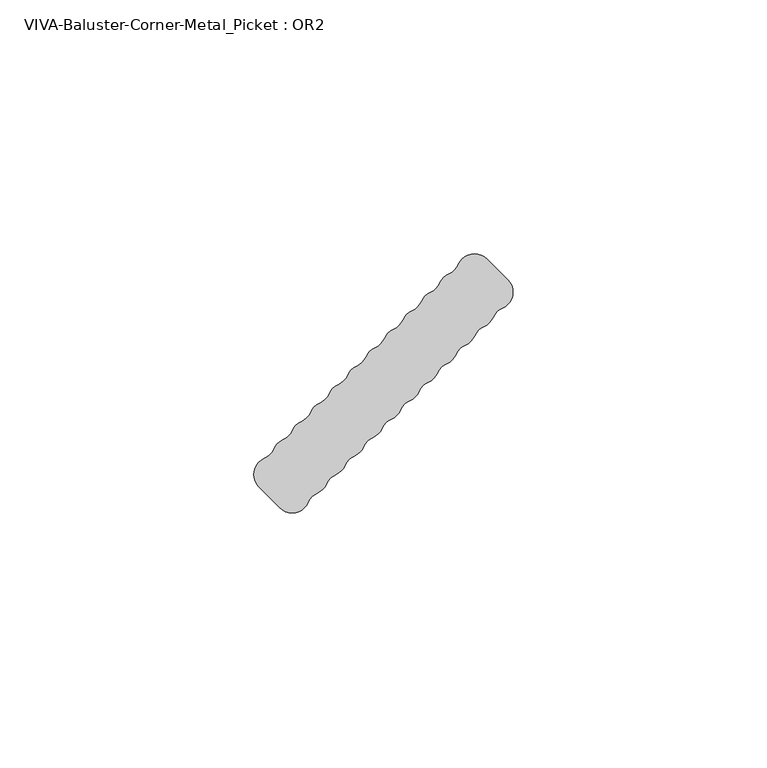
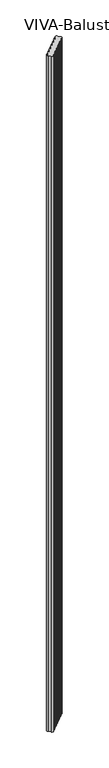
"""IFC4 building model written with IfcOpenShell, lengths in millimetres: railing geometry, VIVA-Baluster-Corner-Metal_Picket : OR2."""

from ifc_helpers import new_model, si_unit, frame, origin, place, context, project, spatial, polyline, circle_curve, source, transform, mapped, element, save
from ifc_brep_helpers import plane_surface, cylinder_surface, revolved_surface, advanced_brep


def viva_baluster_corner_metal_picket_or2_3bf7f570(model_context):
    return source(origin(), model_context, "Body", "AdvancedBrep", [
        advanced_brep(
        [(54.5821964, 81.8019365, 1219.2), (48.9877423, 80.7151586, 1219.2), (47.16774, 78.8951563, 1219.2), (45.3477377, 77.075154, 1219.2), (43.5277353, 75.2551517, 1219.2), (41.707733, 73.4351493, 1219.2), (39.8877307, 71.615147, 1219.2), (38.0677284, 69.7951447, 1219.2), (36.2477261, 67.9751424, 1219.2), (34.4277238, 66.1551401, 1219.2), (32.6077214, 64.3351378, 1219.2), (30.7877191, 62.5151354, 1219.2), (28.9677168, 60.6951331, 1219.2), (27.1477145, 58.8751308, 1219.2), (25.3277122, 57.0551285, 1219.2), (23.5077099, 55.2351262, 1219.2), (21.6877075, 53.4151239, 1219.2), (19.8677052, 51.5951215, 1219.2), (18.0477029, 49.7751192, 1219.2), (16.2277006, 47.9551169, 1219.2), (14.4076983, 46.1351146, 1219.2), (12.587696, 44.3151123, 1219.2), (10.7676936, 42.49511, 1219.2), (9.6809158, 36.9006559, 1219.2), (13.7999423, 32.7816294, 1219.2), (19.3943964, 33.8684072, 1219.2), (21.2143987, 35.6884095, 1219.2), (23.034401, 37.5084119, 1219.2), (24.8544033, 39.3284142, 1219.2), (26.6744056, 41.1484165, 1219.2), (28.494408, 42.9684188, 1219.2), (30.3144103, 44.7884211, 1219.2), (32.1344126, 46.6084234, 1219.2), (33.9544149, 48.4284258, 1219.2), (35.7744172, 50.2484281, 1219.2), (37.5944195, 52.0684304, 1219.2), (39.4144219, 53.8884327, 1219.2), (41.2344242, 55.708435, 1219.2), (43.0544265, 57.5284373, 1219.2), (44.8744288, 59.3484397, 1219.2), (46.6944311, 61.168442, 1219.2), (48.5144334, 62.9884443, 1219.2), (50.3344358, 64.8084466, 1219.2), (52.1544381, 66.6284489, 1219.2), (53.9744404, 68.4484513, 1219.2), (55.7944427, 70.2684536, 1219.2), (57.614445, 72.0884559, 1219.2), (58.7012229, 77.68291, 1219.2), (54.5821964, 81.8019365, -245.8945017), (58.7012229, 77.68291, -245.8945017), (57.614445, 72.0884559, -245.8945017), (55.7944427, 70.2684536, -245.8945017), (53.9744404, 68.4484513, -245.8945017), (52.1544381, 66.6284489, -245.8945017), (50.3344358, 64.8084466, -245.8945017), (48.5144334, 62.9884443, -245.8945017), (46.6944311, 61.168442, -245.8945017), (44.8744288, 59.3484397, -245.8945017), (43.0544265, 57.5284373, -245.8945017), (41.2344242, 55.708435, -245.8945017), (39.4144219, 53.8884327, -245.8945017), (37.5944195, 52.0684304, -245.8945017), (35.7744172, 50.2484281, -245.8945017), (33.9544149, 48.4284258, -245.8945017), (32.1344126, 46.6084234, -245.8945017), (30.3144103, 44.7884211, -245.8945017), (28.494408, 42.9684188, -245.8945017), (26.6744056, 41.1484165, -245.8945017), (24.8544033, 39.3284142, -245.8945017), (23.034401, 37.5084119, -245.8945017), (21.2143987, 35.6884095, -245.8945017), (19.3943964, 33.8684072, -245.8945017), (13.7999423, 32.7816294, -245.8945017), (9.6809158, 36.9006559, -245.8945017), (10.7676936, 42.49511, -245.8945017), (12.587696, 44.3151123, -245.8945017), (14.4076983, 46.1351146, -245.8945017), (16.2277006, 47.9551169, -245.8945017), (18.0477029, 49.7751192, -245.8945017), (19.8677052, 51.5951215, -245.8945017), (21.6877075, 53.4151239, -245.8945017), (23.5077099, 55.2351262, -245.8945017), (25.3277122, 57.0551285, -245.8945017), (27.1477145, 58.8751308, -245.8945017), (28.9677168, 60.6951331, -245.8945017), (30.7877191, 62.5151354, -245.8945017), (32.6077214, 64.3351378, -245.8945017), (34.4277238, 66.1551401, -245.8945017), (36.2477261, 67.9751424, -245.8945017), (38.0677284, 69.7951447, -245.8945017), (39.8877307, 71.615147, -245.8945017), (41.707733, 73.4351493, -245.8945017), (43.5277353, 75.2551517, -245.8945017), (45.3477377, 77.075154, -245.8945017), (47.16774, 78.8951563, -245.8945017), (48.9877423, 80.7151586, -245.8945017)],
        [
            (0, 1, circle_curve(frame((52.1515816, 79.3713217, 1219.2), z_axis=(0.0, 0.0, 1.0), x_axis=(1.0, 0.0, 0.0)), 3.4374084)),
            (1, 2, circle_curve(frame((45.823903, 82.0589956, 1219.2), z_axis=(0.0, 0.0, -1.0), x_axis=(1.0, 0.0, 0.0)), 3.4374084)),
            (2, 3, circle_curve(frame((48.5115769, 75.731317, 1219.2), z_axis=(0.0, 0.0, 1.0), x_axis=(1.0, 0.0, 0.0)), 3.4374084)),
            (3, 4, circle_curve(frame((42.1838984, 78.4189909, 1219.2), z_axis=(0.0, 0.0, -1.0), x_axis=(1.0, 0.0, 0.0)), 3.4374084)),
            (4, 5, circle_curve(frame((44.8715723, 72.0913124, 1219.2), z_axis=(0.0, 0.0, 1.0), x_axis=(1.0, 0.0, 0.0)), 3.4374084)),
            (5, 6, circle_curve(frame((38.5438938, 74.7789863, 1219.2), z_axis=(0.0, 0.0, -1.0), x_axis=(1.0, 0.0, 0.0)), 3.4374084)),
            (6, 7, circle_curve(frame((41.2315677, 68.4513078, 1219.2), z_axis=(0.0, 0.0, 1.0), x_axis=(1.0, 0.0, 0.0)), 3.4374084)),
            (7, 8, circle_curve(frame((34.9038891, 71.1389817, 1219.2), z_axis=(0.0, 0.0, -1.0), x_axis=(1.0, 0.0, 0.0)), 3.4374084)),
            (8, 9, circle_curve(frame((37.591563, 64.8113031, 1219.2), z_axis=(0.0, 0.0, 1.0), x_axis=(1.0, 0.0, 0.0)), 3.4374084)),
            (9, 10, circle_curve(frame((31.2638845, 67.498977, 1219.2), z_axis=(0.0, 0.0, -1.0), x_axis=(1.0, 0.0, 0.0)), 3.4374084)),
            (10, 11, circle_curve(frame((33.9515584, 61.1712985, 1219.2), z_axis=(0.0, 0.0, 1.0), x_axis=(1.0, 0.0, 0.0)), 3.4374084)),
            (11, 12, circle_curve(frame((27.6238798, 63.8589724, 1219.2), z_axis=(0.0, 0.0, -1.0), x_axis=(1.0, 0.0, 0.0)), 3.4374084)),
            (12, 13, circle_curve(frame((30.3115538, 57.5312939, 1219.2), z_axis=(0.0, 0.0, 1.0), x_axis=(1.0, 0.0, 0.0)), 3.4374084)),
            (13, 14, circle_curve(frame((23.9838752, 60.2189678, 1219.2), z_axis=(0.0, 0.0, -1.0), x_axis=(1.0, 0.0, 0.0)), 3.4374084)),
            (14, 15, circle_curve(frame((26.6715491, 53.8912892, 1219.2), z_axis=(0.0, 0.0, 1.0), x_axis=(1.0, 0.0, 0.0)), 3.4374084)),
            (15, 16, circle_curve(frame((20.3438706, 56.5789631, 1219.2), z_axis=(0.0, 0.0, -1.0), x_axis=(1.0, 0.0, 0.0)), 3.4374084)),
            (16, 17, circle_curve(frame((23.0315445, 50.2512846, 1219.2), z_axis=(0.0, 0.0, 1.0), x_axis=(1.0, 0.0, 0.0)), 3.4374084)),
            (17, 18, circle_curve(frame((16.7038659, 52.9389585, 1219.2), z_axis=(0.0, 0.0, -1.0), x_axis=(1.0, 0.0, 0.0)), 3.4374084)),
            (18, 19, circle_curve(frame((19.3915399, 46.6112799, 1219.2), z_axis=(0.0, 0.0, 1.0), x_axis=(1.0, 0.0, 0.0)), 3.4374084)),
            (19, 20, circle_curve(frame((13.0638613, 49.2989539, 1219.2), z_axis=(0.0, 0.0, -1.0), x_axis=(1.0, 0.0, 0.0)), 3.4374084)),
            (20, 21, circle_curve(frame((15.7515352, 42.9712753, 1219.2), z_axis=(0.0, 0.0, 1.0), x_axis=(1.0, 0.0, 0.0)), 3.4374084)),
            (21, 22, circle_curve(frame((9.4238567, 45.6589492, 1219.2), z_axis=(0.0, 0.0, -1.0), x_axis=(1.0, 0.0, 0.0)), 3.4374084)),
            (22, 23, circle_curve(frame((12.1115306, 39.3312707, 1219.2), z_axis=(0.0, 0.0, 1.0), x_axis=(1.0, 0.0, 0.0)), 3.4374084)),
            (23, 24),
            (24, 25, circle_curve(frame((16.2305571, 35.2122442, 1219.2), z_axis=(0.0, 0.0, 1.0), x_axis=(1.0, 0.0, 0.0)), 3.4374084)),
            (25, 26, circle_curve(frame((22.5582356, 32.5245703, 1219.2), z_axis=(0.0, 0.0, -1.0), x_axis=(1.0, 0.0, 0.0)), 3.4374084)),
            (26, 27, circle_curve(frame((19.8705617, 38.8522488, 1219.2), z_axis=(0.0, 0.0, 1.0), x_axis=(1.0, 0.0, 0.0)), 3.4374084)),
            (27, 28, circle_curve(frame((26.1982403, 36.1645749, 1219.2), z_axis=(0.0, 0.0, -1.0), x_axis=(1.0, 0.0, 0.0)), 3.4374084)),
            (28, 29, circle_curve(frame((23.5105664, 42.4922535, 1219.2), z_axis=(0.0, 0.0, 1.0), x_axis=(1.0, 0.0, 0.0)), 3.4374084)),
            (29, 30, circle_curve(frame((29.8382449, 39.8045795, 1219.2), z_axis=(0.0, 0.0, -1.0), x_axis=(1.0, 0.0, 0.0)), 3.4374084)),
            (30, 31, circle_curve(frame((27.150571, 46.1322581, 1219.2), z_axis=(0.0, 0.0, 1.0), x_axis=(1.0, 0.0, 0.0)), 3.4374084)),
            (31, 32, circle_curve(frame((33.4782495, 43.4445842, 1219.2), z_axis=(0.0, 0.0, -1.0), x_axis=(1.0, 0.0, 0.0)), 3.4374084)),
            (32, 33, circle_curve(frame((30.7905756, 49.7722627, 1219.2), z_axis=(0.0, 0.0, 1.0), x_axis=(1.0, 0.0, 0.0)), 3.4374084)),
            (33, 34, circle_curve(frame((37.1182542, 47.0845888, 1219.2), z_axis=(0.0, 0.0, -1.0), x_axis=(1.0, 0.0, 0.0)), 3.4374084)),
            (34, 35, circle_curve(frame((34.4305803, 53.4122674, 1219.2), z_axis=(0.0, 0.0, 1.0), x_axis=(1.0, 0.0, 0.0)), 3.4374084)),
            (35, 36, circle_curve(frame((40.7582588, 50.7245934, 1219.2), z_axis=(0.0, 0.0, -1.0), x_axis=(1.0, 0.0, 0.0)), 3.4374084)),
            (36, 37, circle_curve(frame((38.0705849, 57.052272, 1219.2), z_axis=(0.0, 0.0, 1.0), x_axis=(1.0, 0.0, 0.0)), 3.4374084)),
            (37, 38, circle_curve(frame((44.3982634, 54.3645981, 1219.2), z_axis=(0.0, 0.0, -1.0), x_axis=(1.0, 0.0, 0.0)), 3.4374084)),
            (38, 39, circle_curve(frame((41.7105895, 60.6922766, 1219.2), z_axis=(0.0, 0.0, 1.0), x_axis=(1.0, 0.0, 0.0)), 3.4374084)),
            (39, 40, circle_curve(frame((48.0382681, 58.0046027, 1219.2), z_axis=(0.0, 0.0, -1.0), x_axis=(1.0, 0.0, 0.0)), 3.4374084)),
            (40, 41, circle_curve(frame((45.3505942, 64.3322813, 1219.2), z_axis=(0.0, 0.0, 1.0), x_axis=(1.0, 0.0, 0.0)), 3.4374084)),
            (41, 42, circle_curve(frame((51.6782727, 61.6446073, 1219.2), z_axis=(0.0, 0.0, -1.0), x_axis=(1.0, 0.0, 0.0)), 3.4374084)),
            (42, 43, circle_curve(frame((48.9905988, 67.9722859, 1219.2), z_axis=(0.0, 0.0, 1.0), x_axis=(1.0, 0.0, 0.0)), 3.4374084)),
            (43, 44, circle_curve(frame((55.3182774, 65.284612, 1219.2), z_axis=(0.0, 0.0, -1.0), x_axis=(1.0, 0.0, 0.0)), 3.4374084)),
            (44, 45, circle_curve(frame((52.6306034, 71.6122905, 1219.2), z_axis=(0.0, 0.0, 1.0), x_axis=(1.0, 0.0, 0.0)), 3.4374084)),
            (45, 46, circle_curve(frame((58.958282, 68.9246166, 1219.2), z_axis=(0.0, 0.0, -1.0), x_axis=(1.0, 0.0, 0.0)), 3.4374084)),
            (46, 47, circle_curve(frame((56.2706081, 75.2522952, 1219.2), z_axis=(0.0, 0.0, 1.0), x_axis=(1.0, 0.0, 0.0)), 3.4374084)),
            (47, 0),
            (48, 49),
            (49, 50, circle_curve(frame((56.2706081, 75.2522952, -245.8945017), z_axis=(0.0, 0.0, -1.0), x_axis=(1.0, 0.0, 0.0)), 3.4374084)),
            (50, 51, circle_curve(frame((58.958282, 68.9246166, -245.8945017), z_axis=(0.0, 0.0, 1.0), x_axis=(1.0, 0.0, 0.0)), 3.4374084)),
            (51, 52, circle_curve(frame((52.6306034, 71.6122905, -245.8945017), z_axis=(0.0, 0.0, -1.0), x_axis=(1.0, 0.0, 0.0)), 3.4374084)),
            (52, 53, circle_curve(frame((55.3182774, 65.284612, -245.8945017), z_axis=(0.0, 0.0, 1.0), x_axis=(1.0, 0.0, 0.0)), 3.4374084)),
            (53, 54, circle_curve(frame((48.9905988, 67.9722859, -245.8945017), z_axis=(0.0, 0.0, -1.0), x_axis=(1.0, 0.0, 0.0)), 3.4374084)),
            (54, 55, circle_curve(frame((51.6782727, 61.6446073, -245.8945017), z_axis=(0.0, 0.0, 1.0), x_axis=(1.0, 0.0, 0.0)), 3.4374084)),
            (55, 56, circle_curve(frame((45.3505942, 64.3322813, -245.8945017), z_axis=(0.0, 0.0, -1.0), x_axis=(1.0, 0.0, 0.0)), 3.4374084)),
            (56, 57, circle_curve(frame((48.0382681, 58.0046027, -245.8945017), z_axis=(0.0, 0.0, 1.0), x_axis=(1.0, 0.0, 0.0)), 3.4374084)),
            (57, 58, circle_curve(frame((41.7105895, 60.6922766, -245.8945017), z_axis=(0.0, 0.0, -1.0), x_axis=(1.0, 0.0, 0.0)), 3.4374084)),
            (58, 59, circle_curve(frame((44.3982634, 54.3645981, -245.8945017), z_axis=(0.0, 0.0, 1.0), x_axis=(1.0, 0.0, 0.0)), 3.4374084)),
            (59, 60, circle_curve(frame((38.0705849, 57.052272, -245.8945017), z_axis=(0.0, 0.0, -1.0), x_axis=(1.0, 0.0, 0.0)), 3.4374084)),
            (60, 61, circle_curve(frame((40.7582588, 50.7245934, -245.8945017), z_axis=(0.0, 0.0, 1.0), x_axis=(1.0, 0.0, 0.0)), 3.4374084)),
            (61, 62, circle_curve(frame((34.4305803, 53.4122674, -245.8945017), z_axis=(0.0, 0.0, -1.0), x_axis=(1.0, 0.0, 0.0)), 3.4374084)),
            (62, 63, circle_curve(frame((37.1182542, 47.0845888, -245.8945017), z_axis=(0.0, 0.0, 1.0), x_axis=(1.0, 0.0, 0.0)), 3.4374084)),
            (63, 64, circle_curve(frame((30.7905756, 49.7722627, -245.8945017), z_axis=(0.0, 0.0, -1.0), x_axis=(1.0, 0.0, 0.0)), 3.4374084)),
            (64, 65, circle_curve(frame((33.4782495, 43.4445842, -245.8945017), z_axis=(0.0, 0.0, 1.0), x_axis=(1.0, 0.0, 0.0)), 3.4374084)),
            (65, 66, circle_curve(frame((27.150571, 46.1322581, -245.8945017), z_axis=(0.0, 0.0, -1.0), x_axis=(1.0, 0.0, 0.0)), 3.4374084)),
            (66, 67, circle_curve(frame((29.8382449, 39.8045795, -245.8945017), z_axis=(0.0, 0.0, 1.0), x_axis=(1.0, 0.0, 0.0)), 3.4374084)),
            (67, 68, circle_curve(frame((23.5105664, 42.4922535, -245.8945017), z_axis=(0.0, 0.0, -1.0), x_axis=(1.0, 0.0, 0.0)), 3.4374084)),
            (68, 69, circle_curve(frame((26.1982403, 36.1645749, -245.8945017), z_axis=(0.0, 0.0, 1.0), x_axis=(1.0, 0.0, 0.0)), 3.4374084)),
            (69, 70, circle_curve(frame((19.8705617, 38.8522488, -245.8945017), z_axis=(0.0, 0.0, -1.0), x_axis=(1.0, 0.0, 0.0)), 3.4374084)),
            (70, 71, circle_curve(frame((22.5582356, 32.5245703, -245.8945017), z_axis=(0.0, 0.0, 1.0), x_axis=(1.0, 0.0, 0.0)), 3.4374084)),
            (71, 72, circle_curve(frame((16.2305571, 35.2122442, -245.8945017), z_axis=(0.0, 0.0, -1.0), x_axis=(1.0, 0.0, 0.0)), 3.4374084)),
            (72, 73),
            (73, 74, circle_curve(frame((12.1115306, 39.3312707, -245.8945017), z_axis=(0.0, 0.0, -1.0), x_axis=(1.0, 0.0, 0.0)), 3.4374084)),
            (74, 75, circle_curve(frame((9.4238567, 45.6589492, -245.8945017), z_axis=(0.0, 0.0, 1.0), x_axis=(1.0, 0.0, 0.0)), 3.4374084)),
            (75, 76, circle_curve(frame((15.7515352, 42.9712753, -245.8945017), z_axis=(0.0, 0.0, -1.0), x_axis=(1.0, 0.0, 0.0)), 3.4374084)),
            (76, 77, circle_curve(frame((13.0638613, 49.2989539, -245.8945017), z_axis=(0.0, 0.0, 1.0), x_axis=(1.0, 0.0, 0.0)), 3.4374084)),
            (77, 78, circle_curve(frame((19.3915399, 46.6112799, -245.8945017), z_axis=(0.0, 0.0, -1.0), x_axis=(1.0, 0.0, 0.0)), 3.4374084)),
            (78, 79, circle_curve(frame((16.7038659, 52.9389585, -245.8945017), z_axis=(0.0, 0.0, 1.0), x_axis=(1.0, 0.0, 0.0)), 3.4374084)),
            (79, 80, circle_curve(frame((23.0315445, 50.2512846, -245.8945017), z_axis=(0.0, 0.0, -1.0), x_axis=(1.0, 0.0, 0.0)), 3.4374084)),
            (80, 81, circle_curve(frame((20.3438706, 56.5789631, -245.8945017), z_axis=(0.0, 0.0, 1.0), x_axis=(1.0, 0.0, 0.0)), 3.4374084)),
            (81, 82, circle_curve(frame((26.6715491, 53.8912892, -245.8945017), z_axis=(0.0, 0.0, -1.0), x_axis=(1.0, 0.0, 0.0)), 3.4374084)),
            (82, 83, circle_curve(frame((23.9838752, 60.2189678, -245.8945017), z_axis=(0.0, 0.0, 1.0), x_axis=(1.0, 0.0, 0.0)), 3.4374084)),
            (83, 84, circle_curve(frame((30.3115538, 57.5312939, -245.8945017), z_axis=(0.0, 0.0, -1.0), x_axis=(1.0, 0.0, 0.0)), 3.4374084)),
            (84, 85, circle_curve(frame((27.6238798, 63.8589724, -245.8945017), z_axis=(0.0, 0.0, 1.0), x_axis=(1.0, 0.0, 0.0)), 3.4374084)),
            (85, 86, circle_curve(frame((33.9515584, 61.1712985, -245.8945017), z_axis=(0.0, 0.0, -1.0), x_axis=(1.0, 0.0, 0.0)), 3.4374084)),
            (86, 87, circle_curve(frame((31.2638845, 67.498977, -245.8945017), z_axis=(0.0, 0.0, 1.0), x_axis=(1.0, 0.0, 0.0)), 3.4374084)),
            (87, 88, circle_curve(frame((37.591563, 64.8113031, -245.8945017), z_axis=(0.0, 0.0, -1.0), x_axis=(1.0, 0.0, 0.0)), 3.4374084)),
            (88, 89, circle_curve(frame((34.9038891, 71.1389817, -245.8945017), z_axis=(0.0, 0.0, 1.0), x_axis=(1.0, 0.0, 0.0)), 3.4374084)),
            (89, 90, circle_curve(frame((41.2315677, 68.4513078, -245.8945017), z_axis=(0.0, 0.0, -1.0), x_axis=(1.0, 0.0, 0.0)), 3.4374084)),
            (90, 91, circle_curve(frame((38.5438938, 74.7789863, -245.8945017), z_axis=(0.0, 0.0, 1.0), x_axis=(1.0, 0.0, 0.0)), 3.4374084)),
            (91, 92, circle_curve(frame((44.8715723, 72.0913124, -245.8945017), z_axis=(0.0, 0.0, -1.0), x_axis=(1.0, 0.0, 0.0)), 3.4374084)),
            (92, 93, circle_curve(frame((42.1838984, 78.4189909, -245.8945017), z_axis=(0.0, 0.0, 1.0), x_axis=(1.0, 0.0, 0.0)), 3.4374084)),
            (93, 94, circle_curve(frame((48.5115769, 75.731317, -245.8945017), z_axis=(0.0, 0.0, -1.0), x_axis=(1.0, 0.0, 0.0)), 3.4374084)),
            (94, 95, circle_curve(frame((45.823903, 82.0589956, -245.8945017), z_axis=(0.0, 0.0, 1.0), x_axis=(1.0, 0.0, 0.0)), 3.4374084)),
            (95, 48, circle_curve(frame((52.1515816, 79.3713217, -245.8945017), z_axis=(0.0, 0.0, -1.0), x_axis=(1.0, 0.0, 0.0)), 3.4374084)),
            (0, 48),
            (95, 1),
            (94, 2),
            (93, 3),
            (92, 4),
            (91, 5),
            (90, 6),
            (89, 7),
            (88, 8),
            (87, 9),
            (86, 10),
            (85, 11),
            (84, 12),
            (83, 13),
            (82, 14),
            (81, 15),
            (80, 16),
            (79, 17),
            (78, 18),
            (77, 19),
            (76, 20),
            (75, 21),
            (74, 22),
            (73, 23),
            (72, 24),
            (71, 25),
            (70, 26),
            (69, 27),
            (68, 28),
            (67, 29),
            (66, 30),
            (65, 31),
            (64, 32),
            (63, 33),
            (62, 34),
            (61, 35),
            (60, 36),
            (59, 37),
            (58, 38),
            (57, 39),
            (56, 40),
            (55, 41),
            (54, 42),
            (53, 43),
            (52, 44),
            (51, 45),
            (50, 46),
            (49, 47),
        ],
        [
            plane_surface(frame((55.58899, 79.3713217, 1219.2), z_axis=(0.0, 0.0, 1.0), x_axis=(0.0, 1.0, 0.0))),
            plane_surface(frame((55.58899, 79.3713217, -245.8945017), z_axis=(0.0, 0.0, -1.0), x_axis=(0.0, -1.0, 0.0))),
            cylinder_surface(frame((52.1515816, 79.3713217, -245.8945017), z_axis=(0.0, 0.0, 1.0), x_axis=(1.0, 0.0, 0.0)), 3.4374084),
            revolved_surface(polyline([(49.261311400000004, 82.0589956, -245.8945017), (49.261311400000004, 82.0589956, 1219.2)]), (45.823903, 82.0589956, -245.8945017), (0.0, 0.0, -1.0)),
            cylinder_surface(frame((48.5115769, 75.731317, -245.8945017), z_axis=(0.0, 0.0, 1.0), x_axis=(1.0, 0.0, 0.0)), 3.4374084),
            revolved_surface(polyline([(45.6213068, 78.4189909, -245.8945017), (45.6213068, 78.4189909, 1219.2)]), (42.1838984, 78.4189909, -245.8945017), (0.0, 0.0, -1.0)),
            cylinder_surface(frame((44.8715723, 72.0913124, -245.8945017), z_axis=(0.0, 0.0, 1.0), x_axis=(1.0, 0.0, 0.0)), 3.4374084),
            revolved_surface(polyline([(41.9813022, 74.7789863, -245.8945017), (41.9813022, 74.7789863, 1219.2)]), (38.5438938, 74.7789863, -245.8945017), (0.0, 0.0, -1.0)),
            cylinder_surface(frame((41.2315677, 68.4513078, -245.8945017), z_axis=(0.0, 0.0, 1.0), x_axis=(1.0, 0.0, 0.0)), 3.4374084),
            revolved_surface(polyline([(38.3412975, 71.1389817, -245.8945017), (38.3412975, 71.1389817, 1219.2)]), (34.9038891, 71.1389817, -245.8945017), (0.0, 0.0, -1.0)),
            cylinder_surface(frame((37.591563, 64.8113031, -245.8945017), z_axis=(0.0, 0.0, 1.0), x_axis=(1.0, 0.0, 0.0)), 3.4374084),
            revolved_surface(polyline([(34.7012929, 67.498977, -245.8945017), (34.7012929, 67.498977, 1219.2)]), (31.2638845, 67.498977, -245.8945017), (0.0, 0.0, -1.0)),
            cylinder_surface(frame((33.9515584, 61.1712985, -245.8945017), z_axis=(0.0, 0.0, 1.0), x_axis=(1.0, 0.0, 0.0)), 3.4374084),
            revolved_surface(polyline([(31.0612882, 63.8589724, -245.8945017), (31.0612882, 63.8589724, 1219.2)]), (27.6238798, 63.8589724, -245.8945017), (0.0, 0.0, -1.0)),
            cylinder_surface(frame((30.3115538, 57.5312939, -245.8945017), z_axis=(0.0, 0.0, 1.0), x_axis=(1.0, 0.0, 0.0)), 3.4374084),
            revolved_surface(polyline([(27.4212836, 60.2189678, -245.8945017), (27.4212836, 60.2189678, 1219.2)]), (23.9838752, 60.2189678, -245.8945017), (0.0, 0.0, -1.0)),
            cylinder_surface(frame((26.6715491, 53.8912892, -245.8945017), z_axis=(0.0, 0.0, 1.0), x_axis=(1.0, 0.0, 0.0)), 3.4374084),
            revolved_surface(polyline([(23.781278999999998, 56.5789631, -245.8945017), (23.781278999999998, 56.5789631, 1219.2)]), (20.3438706, 56.5789631, -245.8945017), (0.0, 0.0, -1.0)),
            cylinder_surface(frame((23.0315445, 50.2512846, -245.8945017), z_axis=(0.0, 0.0, 1.0), x_axis=(1.0, 0.0, 0.0)), 3.4374084),
            revolved_surface(polyline([(20.1412743, 52.9389585, -245.8945017), (20.1412743, 52.9389585, 1219.2)]), (16.7038659, 52.9389585, -245.8945017), (0.0, 0.0, -1.0)),
            cylinder_surface(frame((19.3915399, 46.6112799, -245.8945017), z_axis=(0.0, 0.0, 1.0), x_axis=(1.0, 0.0, 0.0)), 3.4374084),
            revolved_surface(polyline([(16.501269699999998, 49.2989539, -245.8945017), (16.501269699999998, 49.2989539, 1219.2)]), (13.0638613, 49.2989539, -245.8945017), (0.0, 0.0, -1.0)),
            cylinder_surface(frame((15.7515352, 42.9712753, -245.8945017), z_axis=(0.0, 0.0, 1.0), x_axis=(1.0, 0.0, 0.0)), 3.4374084),
            revolved_surface(polyline([(12.8612651, 45.6589492, -245.8945017), (12.8612651, 45.6589492, 1219.2)]), (9.4238567, 45.6589492, -245.8945017), (0.0, 0.0, -1.0)),
            cylinder_surface(frame((12.1115306, 39.3312707, -245.8945017), z_axis=(0.0, 0.0, 1.0), x_axis=(1.0, 0.0, 0.0)), 3.4374084),
            plane_surface(frame((9.6809158, 36.9006559, 1219.2), z_axis=(-0.7071067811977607, -0.7071067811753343, 0.0), x_axis=(0.0, 0.0, -1.0))),
            cylinder_surface(frame((16.2305571, 35.2122442, -245.8945017), z_axis=(0.0, 0.0, 1.0), x_axis=(1.0, 0.0, 0.0)), 3.4374084),
            revolved_surface(polyline([(25.995644, 32.5245703, -245.8945017), (25.995644, 32.5245703, 1219.2)]), (22.5582356, 32.5245703, -245.8945017), (0.0, 0.0, -1.0)),
            cylinder_surface(frame((19.8705617, 38.8522488, -245.8945017), z_axis=(0.0, 0.0, 1.0), x_axis=(1.0, 0.0, 0.0)), 3.4374084),
            revolved_surface(polyline([(29.635648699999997, 36.1645749, -245.8945017), (29.635648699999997, 36.1645749, 1219.2)]), (26.1982403, 36.1645749, -245.8945017), (0.0, 0.0, -1.0)),
            cylinder_surface(frame((23.5105664, 42.4922535, -245.8945017), z_axis=(0.0, 0.0, 1.0), x_axis=(1.0, 0.0, 0.0)), 3.4374084),
            revolved_surface(polyline([(33.2756533, 39.8045795, -245.8945017), (33.2756533, 39.8045795, 1219.2)]), (29.8382449, 39.8045795, -245.8945017), (0.0, 0.0, -1.0)),
            cylinder_surface(frame((27.150571, 46.1322581, -245.8945017), z_axis=(0.0, 0.0, 1.0), x_axis=(1.0, 0.0, 0.0)), 3.4374084),
            revolved_surface(polyline([(36.9156579, 43.4445842, -245.8945017), (36.9156579, 43.4445842, 1219.2)]), (33.4782495, 43.4445842, -245.8945017), (0.0, 0.0, -1.0)),
            cylinder_surface(frame((30.7905756, 49.7722627, -245.8945017), z_axis=(0.0, 0.0, 1.0), x_axis=(1.0, 0.0, 0.0)), 3.4374084),
            revolved_surface(polyline([(40.555662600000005, 47.0845888, -245.8945017), (40.555662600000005, 47.0845888, 1219.2)]), (37.1182542, 47.0845888, -245.8945017), (0.0, 0.0, -1.0)),
            cylinder_surface(frame((34.4305803, 53.4122674, -245.8945017), z_axis=(0.0, 0.0, 1.0), x_axis=(1.0, 0.0, 0.0)), 3.4374084),
            revolved_surface(polyline([(44.1956672, 50.7245934, -245.8945017), (44.1956672, 50.7245934, 1219.2)]), (40.7582588, 50.7245934, -245.8945017), (0.0, 0.0, -1.0)),
            cylinder_surface(frame((38.0705849, 57.052272, -245.8945017), z_axis=(0.0, 0.0, 1.0), x_axis=(1.0, 0.0, 0.0)), 3.4374084),
            revolved_surface(polyline([(47.8356718, 54.3645981, -245.8945017), (47.8356718, 54.3645981, 1219.2)]), (44.3982634, 54.3645981, -245.8945017), (0.0, 0.0, -1.0)),
            cylinder_surface(frame((41.7105895, 60.6922766, -245.8945017), z_axis=(0.0, 0.0, 1.0), x_axis=(1.0, 0.0, 0.0)), 3.4374084),
            revolved_surface(polyline([(51.475676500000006, 58.0046027, -245.8945017), (51.475676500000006, 58.0046027, 1219.2)]), (48.0382681, 58.0046027, -245.8945017), (0.0, 0.0, -1.0)),
            cylinder_surface(frame((45.3505942, 64.3322813, -245.8945017), z_axis=(0.0, 0.0, 1.0), x_axis=(1.0, 0.0, 0.0)), 3.4374084),
            revolved_surface(polyline([(55.1156811, 61.6446073, -245.8945017), (55.1156811, 61.6446073, 1219.2)]), (51.6782727, 61.6446073, -245.8945017), (0.0, 0.0, -1.0)),
            cylinder_surface(frame((48.9905988, 67.9722859, -245.8945017), z_axis=(0.0, 0.0, 1.0), x_axis=(1.0, 0.0, 0.0)), 3.4374084),
            revolved_surface(polyline([(58.7556858, 65.284612, -245.8945017), (58.7556858, 65.284612, 1219.2)]), (55.3182774, 65.284612, -245.8945017), (0.0, 0.0, -1.0)),
            cylinder_surface(frame((52.6306034, 71.6122905, -245.8945017), z_axis=(0.0, 0.0, 1.0), x_axis=(1.0, 0.0, 0.0)), 3.4374084),
            revolved_surface(polyline([(62.3956904, 68.9246166, -245.8945017), (62.3956904, 68.9246166, 1219.2)]), (58.958282, 68.9246166, -245.8945017), (0.0, 0.0, -1.0)),
            cylinder_surface(frame((56.2706081, 75.2522952, -245.8945017), z_axis=(0.0, 0.0, 1.0), x_axis=(1.0, 0.0, 0.0)), 3.4374084),
            plane_surface(frame((58.7012229, 77.68291, 1219.2), z_axis=(0.7071067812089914, 0.7071067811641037, 0.0), x_axis=(0.0, 0.0, -1.0))),
        ],
        [
            (0, [[1, 2, 3, 4, 5, 6, 7, 8, 9, 10, 11, 12, 13, 14, 15, 16, 17, 18, 19, 20, 21, 22, 23, 24, 25, 26, 27, 28, 29, 30, 31, 32, 33, 34, 35, 36, 37, 38, 39, 40, 41, 42, 43, 44, 45, 46, 47, 48]]),
            (1, [[49, 50, 51, 52, 53, 54, 55, 56, 57, 58, 59, 60, 61, 62, 63, 64, 65, 66, 67, 68, 69, 70, 71, 72, 73, 74, 75, 76, 77, 78, 79, 80, 81, 82, 83, 84, 85, 86, 87, 88, 89, 90, 91, 92, 93, 94, 95, 96]]),
            (2, [[-1, 97, -96, 98]]),
            (3, [[-2, -98, -95, 99]]),
            (4, [[-3, -99, -94, 100]]),
            (5, [[-4, -100, -93, 101]]),
            (6, [[-5, -101, -92, 102]]),
            (7, [[-6, -102, -91, 103]]),
            (8, [[-7, -103, -90, 104]]),
            (9, [[-8, -104, -89, 105]]),
            (10, [[-9, -105, -88, 106]]),
            (11, [[-10, -106, -87, 107]]),
            (12, [[-11, -107, -86, 108]]),
            (13, [[-12, -108, -85, 109]]),
            (14, [[-13, -109, -84, 110]]),
            (15, [[-14, -110, -83, 111]]),
            (16, [[-15, -111, -82, 112]]),
            (17, [[-16, -112, -81, 113]]),
            (18, [[-17, -113, -80, 114]]),
            (19, [[-18, -114, -79, 115]]),
            (20, [[-19, -115, -78, 116]]),
            (21, [[-20, -116, -77, 117]]),
            (22, [[-21, -117, -76, 118]]),
            (23, [[-22, -118, -75, 119]]),
            (24, [[-23, -119, -74, 120]]),
            (25, [[-24, -120, -73, 121]]),
            (26, [[-25, -121, -72, 122]]),
            (27, [[-26, -122, -71, 123]]),
            (28, [[-27, -123, -70, 124]]),
            (29, [[-28, -124, -69, 125]]),
            (30, [[-29, -125, -68, 126]]),
            (31, [[-30, -126, -67, 127]]),
            (32, [[-31, -127, -66, 128]]),
            (33, [[-32, -128, -65, 129]]),
            (34, [[-33, -129, -64, 130]]),
            (35, [[-34, -130, -63, 131]]),
            (36, [[-35, -131, -62, 132]]),
            (37, [[-36, -132, -61, 133]]),
            (38, [[-37, -133, -60, 134]]),
            (39, [[-38, -134, -59, 135]]),
            (40, [[-39, -135, -58, 136]]),
            (41, [[-40, -136, -57, 137]]),
            (42, [[-41, -137, -56, 138]]),
            (43, [[-42, -138, -55, 139]]),
            (44, [[-43, -139, -54, 140]]),
            (45, [[-44, -140, -53, 141]]),
            (46, [[-45, -141, -52, 142]]),
            (47, [[-46, -142, -51, 143]]),
            (48, [[-47, -143, -50, 144]]),
            (49, [[-48, -144, -49, -97]]),
        ],
    ),
    ])


if __name__ == "__main__":
    model = new_model("IFC4")
    model_context = context("Model", 3, world=origin())
    ifc_project = project(units=[si_unit("LENGTHUNIT", "METRE", prefix="MILLI")], contexts=[model_context])
    site = spatial("IfcSite", under=ifc_project)
    building = spatial("IfcBuilding", under=site)
    placement = place(None, origin())
    viva_baluster_corner_metal_picket_or2_shape = viva_baluster_corner_metal_picket_or2_3bf7f570(model_context)
    element("IfcRailing", 1, ObjectType="VIVA-Baluster-Corner-Metal_Picket : OR2", at=placement, inside=building, context=model_context, shape_type="MappedRepresentation", body=[
        mapped(viva_baluster_corner_metal_picket_or2_shape, transform((0.0, 0.0, 0.0), x_axis=(1.0, 0.0, 0.0), y_axis=(0.0, 1.0, 0.0), z_axis=(0.0, 0.0, 1.0))),
    ])
    save(model, "model.ifc")
